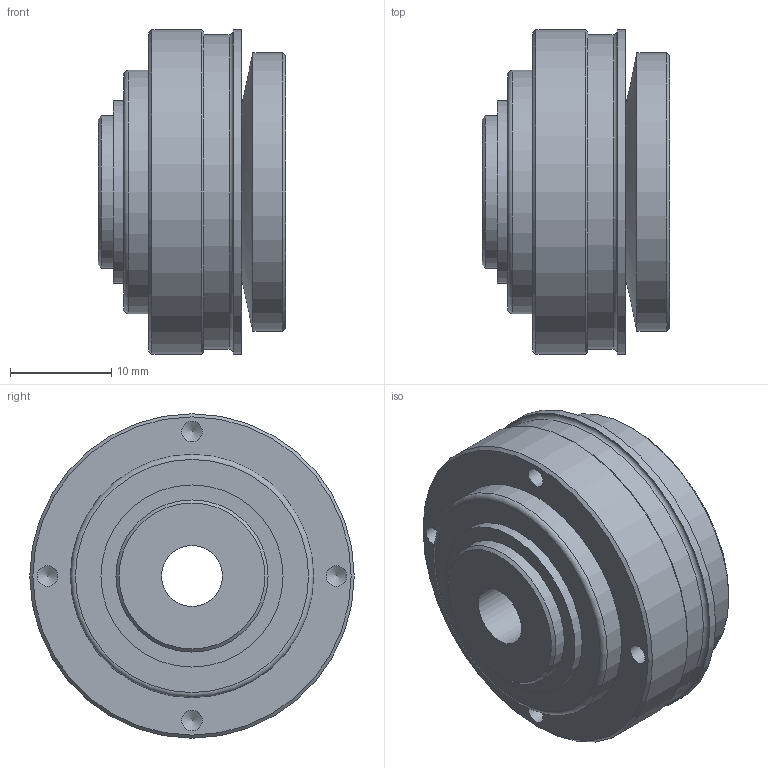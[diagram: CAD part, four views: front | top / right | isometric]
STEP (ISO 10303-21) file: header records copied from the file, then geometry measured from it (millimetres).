
FILE_DESCRIPTION(/* description */ ('Unknown','CAx-IF Rec.Pracs.---Representation and Presentation of Product Manufacturing Information (PMI)---4.0---2014-10-13','CAx-IF Rec.Pracs.---3D Tessellated Geometry---0.4---2014-09-14','2;1'),/* implementation_level */ '2;1');
FILE_NAME(/* name */ 'SKW 1,5',/* time_stamp */ '2024-07-30T16:29:14+02:00',/* author */ ('Unknown'),/* organization */ ('Unknown'),/* preprocessor_version */ 'ST-DEVELOPER v18.102',/* originating_system */ 'Solid Edge',/* authorisation */ 'Unknown');
FILE_SCHEMA (('AP242_MANAGED_MODEL_BASED_3D_ENGINEERING_MIM_LF { 1 0 10303 442 1 1 4 }'));
Length unit declared in the file: millimetre
Products named in the file (1): SKW   3
Bounding box: 18.5 x 32 x 32 mm (x, y, z)
Volume: 10622.5 mm3; surface area: 4261.8 mm2
Topology: 1 solids, 1 shells, 35 faces, 77 edges, 49 vertices
Faces by surface type: cylinder 16, cone 10, plane 7, torus 2
Full cylindrical faces by diameter (mm): 2.013 x8, 6 x1, 15 x1, 17.967 x1, 24 x1, 27.5 x1, 31 x1, 32 x2
Entity records: 991 total; most frequent: DIRECTION 144, CARTESIAN_POINT 111, FACE_BOUND 74, AXIS2_PLACEMENT_3D 72, ORIENTED_EDGE 70, EDGE_LOOP 70, VERTEX_POINT 39, EDGE_CURVE 35
